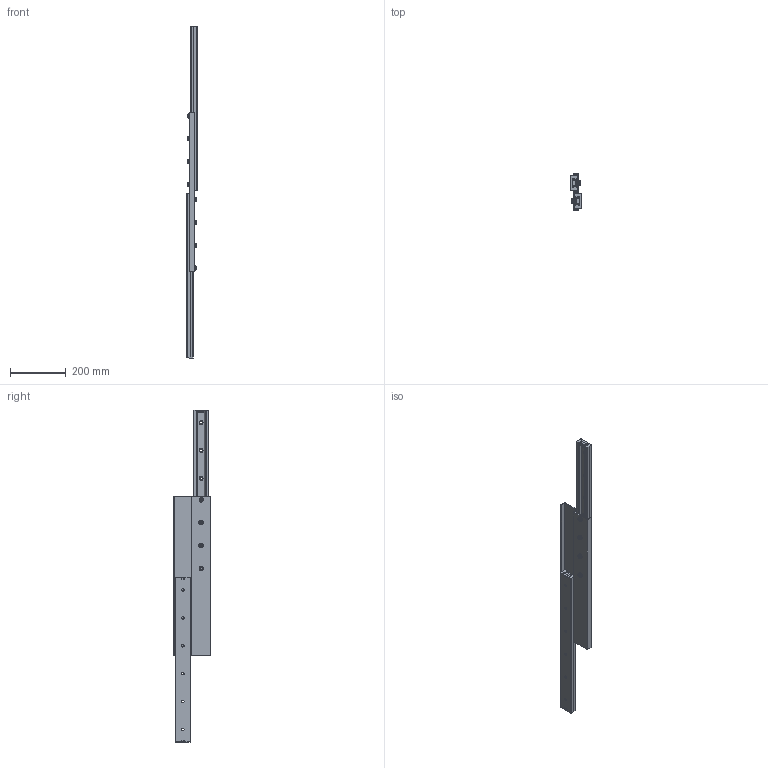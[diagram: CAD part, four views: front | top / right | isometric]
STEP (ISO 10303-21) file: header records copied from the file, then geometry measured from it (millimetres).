
FILE_DESCRIPTION (( 'STEP AP214' ), '1' );
FILE_NAME ('LSIM55DVL.STEP', '2021-06-13T23:47:34', ( '' ), ( '' ), 'SwSTEP 2.0', 'SolidWorks 2019', '' );
FILE_SCHEMA (( 'AUTOMOTIVE_DESIGN' ));
Length unit declared in the file: millimetre
Products named in the file (4): LSIM55ストッパー; LSIM55DVLレール; LSIM55DVLリテーナ; LSIM55DVL
Assembly tree (7 placements, depth 2):
  LSIM55DVL
    LSIM55DVLレール  x2
    LSIM55DVLリテーナ
    LSIM55ストッパー  x4
Bounding box: 38.4 x 134 x 1190 mm (x, y, z)
Volume: 1348386.9 mm3; surface area: 475995.1 mm2
Topology: 7 solids, 7 shells, 500 faces, 1106 edges, 704 vertices
Faces by surface type: plane 260, cylinder 128, cone 104, torus 8
Full cylindrical faces by diameter (mm): 3.3 x8, 4 x8, 7.5 x8, 8 x16, 9 x12, 12.3 x8, 14 x12, 16 x8, 24 x16
Entity records: 9709 total; most frequent: CARTESIAN_POINT 2486, DIRECTION 1435, ORIENTED_EDGE 1314, EDGE_CURVE 657, AXIS2_PLACEMENT_3D 615, EDGE_LOOP 497, VERTEX_POINT 450, FACE_OUTER_BOUND 415
